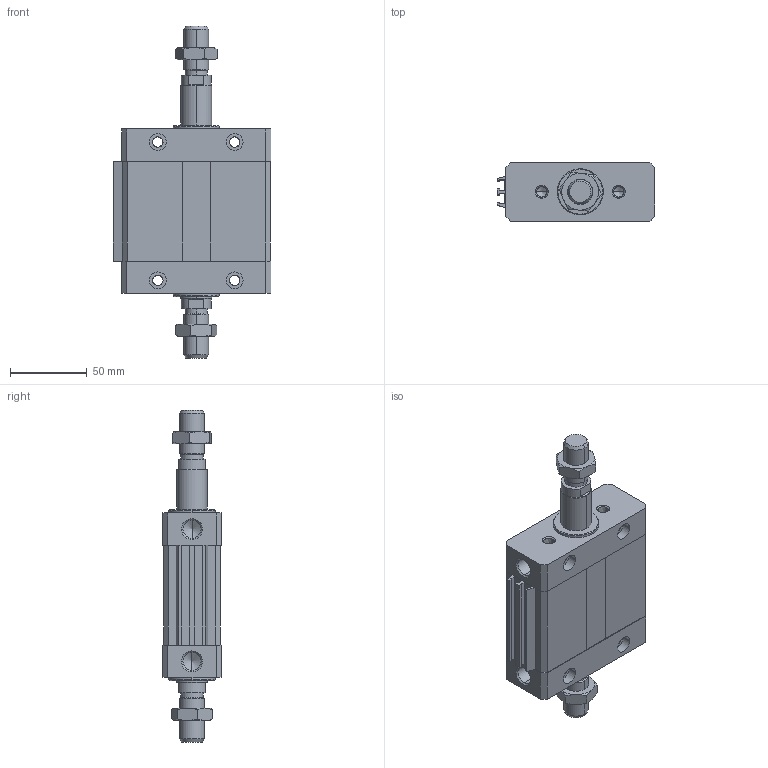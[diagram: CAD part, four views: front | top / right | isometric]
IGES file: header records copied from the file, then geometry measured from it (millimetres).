
Global section: file name: No Iges File Name specified; native system: Autodesk Inventor 2011; preprocessor: AutoDesk Inventor Iges Exporter R2011; author: airolcr1; date: 20101213.153301; units: millimetre
Bounding box: 102.5 x 38 x 216 mm (x, y, z)
Volume: 364064.9 mm3; surface area: 96649.9 mm2
Topology: 6 solids, 6 shells, 280 faces, 664 edges, 396 vertices
Faces by surface type: bspline 114, plane 98, cone 36, cylinder 18, revolution 14
